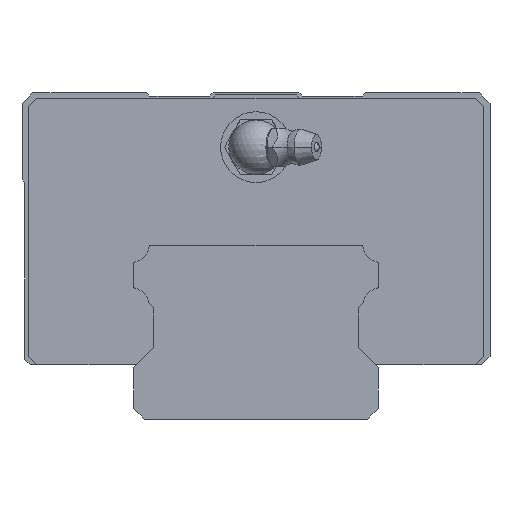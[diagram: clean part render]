
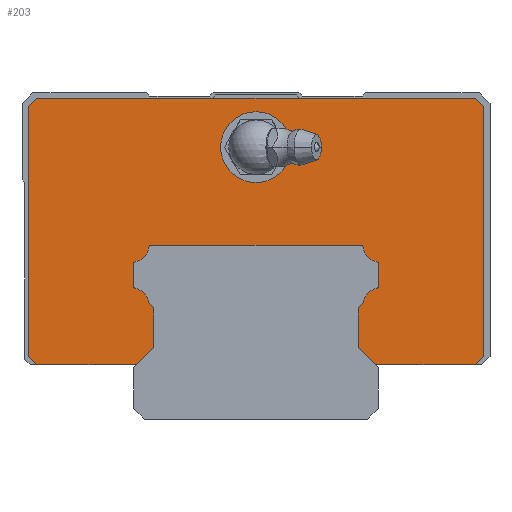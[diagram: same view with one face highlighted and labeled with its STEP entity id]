
A CAD part, front view. The second image highlights one B-rep face of the part: STEP entity #203.
In plain terms, the highlighted planar face has unit normal (0, -1, 0).
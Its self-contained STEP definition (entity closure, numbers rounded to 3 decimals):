
#203=ADVANCED_FACE('',(#461,#462),#463,.T.);
#461=FACE_BOUND('',#941,.T.);
#462=FACE_OUTER_BOUND('',#942,.T.);
#463=PLANE('',#943);
#941=EDGE_LOOP('',(#1629,#1630,#1631));
#942=EDGE_LOOP('',(#1632,#1633,#1634,#1635,#1636,#1637,#1638,#1639,#1640,#1641,#1642,#1643,#1644,#1645,#1646,#1647,#1648,#1649,#1650,#1651,#1652,#1653,#1654,#1655,#1656,#1657,#1658,#1659));
#943=AXIS2_PLACEMENT_3D('',#1660,#1661,#1662);
#1629=ORIENTED_EDGE('',*,*,#3338,.F.);
#1630=ORIENTED_EDGE('',*,*,#3339,.F.);
#1631=ORIENTED_EDGE('',*,*,#3274,.F.);
#1632=ORIENTED_EDGE('',*,*,#3340,.T.);
#1633=ORIENTED_EDGE('',*,*,#3341,.T.);
#1634=ORIENTED_EDGE('',*,*,#3342,.T.);
#1635=ORIENTED_EDGE('',*,*,#3343,.T.);
#1636=ORIENTED_EDGE('',*,*,#3344,.T.);
#1637=ORIENTED_EDGE('',*,*,#3345,.T.);
#1638=ORIENTED_EDGE('',*,*,#3346,.T.);
#1639=ORIENTED_EDGE('',*,*,#3347,.T.);
#1640=ORIENTED_EDGE('',*,*,#3348,.T.);
#1641=ORIENTED_EDGE('',*,*,#3349,.T.);
#1642=ORIENTED_EDGE('',*,*,#3350,.T.);
#1643=ORIENTED_EDGE('',*,*,#3351,.T.);
#1644=ORIENTED_EDGE('',*,*,#3352,.T.);
#1645=ORIENTED_EDGE('',*,*,#3353,.T.);
#1646=ORIENTED_EDGE('',*,*,#3354,.T.);
#1647=ORIENTED_EDGE('',*,*,#3355,.T.);
#1648=ORIENTED_EDGE('',*,*,#3356,.T.);
#1649=ORIENTED_EDGE('',*,*,#3357,.T.);
#1650=ORIENTED_EDGE('',*,*,#3358,.T.);
#1651=ORIENTED_EDGE('',*,*,#3359,.T.);
#1652=ORIENTED_EDGE('',*,*,#3360,.T.);
#1653=ORIENTED_EDGE('',*,*,#3361,.T.);
#1654=ORIENTED_EDGE('',*,*,#3362,.T.);
#1655=ORIENTED_EDGE('',*,*,#3363,.T.);
#1656=ORIENTED_EDGE('',*,*,#3364,.T.);
#1657=ORIENTED_EDGE('',*,*,#3365,.T.);
#1658=ORIENTED_EDGE('',*,*,#3366,.T.);
#1659=ORIENTED_EDGE('',*,*,#3367,.T.);
#1660=CARTESIAN_POINT('',(0.,-17.0,99.3));
#1661=DIRECTION('',(0.0,-1.0,0.0));
#1662=DIRECTION('',(0.0,0.0,-1.0));
#3274=EDGE_CURVE('',#3900,#3903,#3904,.T.);
#3338=EDGE_CURVE('',#4018,#3900,#4019,.T.);
#3339=EDGE_CURVE('',#3903,#4018,#4020,.T.);
#3340=EDGE_CURVE('',#4021,#4022,#4023,.T.);
#3341=EDGE_CURVE('',#4022,#4024,#4025,.T.);
#3342=EDGE_CURVE('',#4024,#4026,#4027,.T.);
#3343=EDGE_CURVE('',#4026,#4028,#4029,.T.);
#3344=EDGE_CURVE('',#4028,#4030,#4031,.T.);
#3345=EDGE_CURVE('',#4030,#4032,#4033,.T.);
#3346=EDGE_CURVE('',#4032,#4034,#4035,.T.);
#3347=EDGE_CURVE('',#4034,#4036,#4037,.T.);
#3348=EDGE_CURVE('',#4036,#4038,#4039,.T.);
#3349=EDGE_CURVE('',#4038,#4040,#4041,.T.);
#3350=EDGE_CURVE('',#4040,#4042,#4043,.T.);
#3351=EDGE_CURVE('',#4042,#4044,#4045,.T.);
#3352=EDGE_CURVE('',#4044,#4046,#4047,.T.);
#3353=EDGE_CURVE('',#4046,#4048,#4049,.T.);
#3354=EDGE_CURVE('',#4048,#4050,#4051,.T.);
#3355=EDGE_CURVE('',#4050,#4052,#4053,.T.);
#3356=EDGE_CURVE('',#4052,#4054,#4055,.T.);
#3357=EDGE_CURVE('',#4054,#4056,#4057,.T.);
#3358=EDGE_CURVE('',#4056,#4058,#4059,.T.);
#3359=EDGE_CURVE('',#4058,#4060,#4061,.T.);
#3360=EDGE_CURVE('',#4060,#4062,#4063,.T.);
#3361=EDGE_CURVE('',#4062,#4064,#4065,.T.);
#3362=EDGE_CURVE('',#4064,#4066,#4067,.T.);
#3363=EDGE_CURVE('',#4066,#4068,#4069,.T.);
#3364=EDGE_CURVE('',#4068,#4070,#4071,.T.);
#3365=EDGE_CURVE('',#4070,#4072,#4073,.T.);
#3366=EDGE_CURVE('',#4072,#4074,#4075,.T.);
#3367=EDGE_CURVE('',#4074,#4021,#4076,.T.);
#3900=VERTEX_POINT('',#4879);
#3903=VERTEX_POINT('',#4883);
#3904=CIRCLE('',#4884,6.5);
#4018=VERTEX_POINT('',#5031);
#4019=CIRCLE('',#5032,6.5);
#4020=CIRCLE('',#5033,6.5);
#4021=VERTEX_POINT('',#5034);
#4022=VERTEX_POINT('',#5035);
#4023=LINE('',#5036,#5037);
#4024=VERTEX_POINT('',#5038);
#4025=LINE('',#5039,#5040);
#4026=VERTEX_POINT('',#5041);
#4027=LINE('',#5042,#5043);
#4028=VERTEX_POINT('',#5044);
#4029=LINE('',#5045,#5046);
#4030=VERTEX_POINT('',#5047);
#4031=LINE('',#5048,#5049);
#4032=VERTEX_POINT('',#5050);
#4033=LINE('',#5051,#5052);
#4034=VERTEX_POINT('',#5053);
#4035=LINE('',#5054,#5055);
#4036=VERTEX_POINT('',#5056);
#4037=LINE('',#5057,#5058);
#4038=VERTEX_POINT('',#5059);
#4039=LINE('',#5060,#5061);
#4040=VERTEX_POINT('',#5062);
#4041=LINE('',#5063,#5064);
#4042=VERTEX_POINT('',#5065);
#4043=LINE('',#5066,#5067);
#4044=VERTEX_POINT('',#5068);
#4045=LINE('',#5069,#5070);
#4046=VERTEX_POINT('',#5071);
#4047=LINE('',#5072,#5073);
#4048=VERTEX_POINT('',#5074);
#4049=LINE('',#5075,#5076);
#4050=VERTEX_POINT('',#5077);
#4051=CIRCLE('',#5078,3.2);
#4052=VERTEX_POINT('',#5079);
#4053=CIRCLE('',#5080,0.5);
#4054=VERTEX_POINT('',#5081);
#4055=LINE('',#5082,#5083);
#4056=VERTEX_POINT('',#5084);
#4057=CIRCLE('',#5085,0.5);
#4058=VERTEX_POINT('',#5086);
#4059=CIRCLE('',#5087,3.2);
#4060=VERTEX_POINT('',#5088);
#4061=CIRCLE('',#5089,0.5);
#4062=VERTEX_POINT('',#5090);
#4063=LINE('',#5091,#5092);
#4064=VERTEX_POINT('',#5093);
#4065=CIRCLE('',#5094,0.5);
#4066=VERTEX_POINT('',#5095);
#4067=CIRCLE('',#5096,3.2);
#4068=VERTEX_POINT('',#5097);
#4069=CIRCLE('',#5098,0.5);
#4070=VERTEX_POINT('',#5099);
#4071=LINE('',#5100,#5101);
#4072=VERTEX_POINT('',#5102);
#4073=CIRCLE('',#5103,0.5);
#4074=VERTEX_POINT('',#5104);
#4075=CIRCLE('',#5105,3.2);
#4076=LINE('',#5106,#5107);
#4879=CARTESIAN_POINT('',(0.,-17.0,56.5));
#4883=CARTESIAN_POINT('',(0.,-17.0,43.5));
#4884=AXIS2_PLACEMENT_3D('',#6294,#6295,#6296);
#5031=CARTESIAN_POINT('',(6.5,-17.0,50.0));
#5032=AXIS2_PLACEMENT_3D('',#6420,#6421,#6422);
#5033=AXIS2_PLACEMENT_3D('',#6423,#6424,#6425);
#5034=CARTESIAN_POINT('',(18.75,-17.0,20.45));
#5035=CARTESIAN_POINT('',(18.75,-17.0,13.25));
#5036=CARTESIAN_POINT('',(18.75,-17.0,99.3));
#5037=VECTOR('',#6426,1000.0);
#5038=CARTESIAN_POINT('',(22.0,-17.0,10.0));
#5039=CARTESIAN_POINT('',(-33.65,-17.0,65.65));
#5040=VECTOR('',#6427,1000.0);
#5041=CARTESIAN_POINT('',(40.3,-17.0,10.0));
#5042=CARTESIAN_POINT('',(-40.3,-17.0,10.0));
#5043=VECTOR('',#6428,1000.0);
#5044=CARTESIAN_POINT('',(41.8,-17.0,11.5));
#5045=CARTESIAN_POINT('',(40.3,-17.0,10.0));
#5046=VECTOR('',#6429,1000.0);
#5047=CARTESIAN_POINT('',(41.8,-17.0,57.5));
#5048=CARTESIAN_POINT('',(41.8,-17.0,11.5));
#5049=VECTOR('',#6430,1000.0);
#5050=CARTESIAN_POINT('',(40.3,-17.0,59.0));
#5051=CARTESIAN_POINT('',(41.8,-17.0,57.5));
#5052=VECTOR('',#6431,1000.0);
#5053=CARTESIAN_POINT('',(-40.3,-17.0,59.0));
#5054=CARTESIAN_POINT('',(40.3,-17.0,59.0));
#5055=VECTOR('',#6432,1000.0);
#5056=CARTESIAN_POINT('',(-41.8,-17.0,57.5));
#5057=CARTESIAN_POINT('',(-40.3,-17.0,59.0));
#5058=VECTOR('',#6433,1000.0);
#5059=CARTESIAN_POINT('',(-41.8,-17.0,11.5));
#5060=CARTESIAN_POINT('',(-41.8,-17.0,57.5));
#5061=VECTOR('',#6434,1000.0);
#5062=CARTESIAN_POINT('',(-40.3,-17.0,10.0));
#5063=CARTESIAN_POINT('',(-41.8,-17.0,11.5));
#5064=VECTOR('',#6435,1000.0);
#5065=CARTESIAN_POINT('',(-22.0,-17.0,10.0));
#5066=CARTESIAN_POINT('',(-40.3,-17.0,10.0));
#5067=VECTOR('',#6436,1000.0);
#5068=CARTESIAN_POINT('',(-18.75,-17.0,13.25));
#5069=CARTESIAN_POINT('',(33.65,-17.0,65.65));
#5070=VECTOR('',#6437,1000.0);
#5071=CARTESIAN_POINT('',(-18.75,-17.0,20.45));
#5072=CARTESIAN_POINT('',(-18.75,-17.0,99.3));
#5073=VECTOR('',#6438,1000.0);
#5074=CARTESIAN_POINT('',(-19.674,-17.0,21.374));
#5075=CARTESIAN_POINT('',(-48.8,-17.0,50.5));
#5076=VECTOR('',#6439,1000.0);
#5077=CARTESIAN_POINT('',(-22.113,-17.0,24.027));
#5078=AXIS2_PLACEMENT_3D('',#6440,#6441,#6442);
#5079=CARTESIAN_POINT('',(-22.5,-17.0,24.514));
#5080=AXIS2_PLACEMENT_3D('',#6443,#6444,#6445);
#5081=CARTESIAN_POINT('',(-22.5,-17.0,28.486));
#5082=CARTESIAN_POINT('',(-22.5,-17.0,99.3));
#5083=VECTOR('',#6446,1000.0);
#5084=CARTESIAN_POINT('',(-22.113,-17.0,28.973));
#5085=AXIS2_PLACEMENT_3D('',#6447,#6448,#6449);
#5086=CARTESIAN_POINT('',(-19.681,-17.0,31.58));
#5087=AXIS2_PLACEMENT_3D('',#6450,#6451,#6452);
#5088=CARTESIAN_POINT('',(-19.187,-17.0,32.0));
#5089=AXIS2_PLACEMENT_3D('',#6453,#6454,#6455);
#5090=CARTESIAN_POINT('',(19.187,-17.0,32.0));
#5091=CARTESIAN_POINT('',(0.,-17.0,32.0));
#5092=VECTOR('',#6456,1000.0);
#5093=CARTESIAN_POINT('',(19.681,-17.0,31.58));
#5094=AXIS2_PLACEMENT_3D('',#6457,#6458,#6459);
#5095=CARTESIAN_POINT('',(22.113,-17.0,28.973));
#5096=AXIS2_PLACEMENT_3D('',#6460,#6461,#6462);
#5097=CARTESIAN_POINT('',(22.5,-17.0,28.486));
#5098=AXIS2_PLACEMENT_3D('',#6463,#6464,#6465);
#5099=CARTESIAN_POINT('',(22.5,-17.0,24.514));
#5100=CARTESIAN_POINT('',(22.5,-17.0,99.3));
#5101=VECTOR('',#6466,1000.0);
#5102=CARTESIAN_POINT('',(22.113,-17.0,24.027));
#5103=AXIS2_PLACEMENT_3D('',#6467,#6468,#6469);
#5104=CARTESIAN_POINT('',(19.674,-17.0,21.374));
#5105=AXIS2_PLACEMENT_3D('',#6470,#6471,#6472);
#5106=CARTESIAN_POINT('',(48.8,-17.0,50.5));
#5107=VECTOR('',#6473,1000.0);
#6294=CARTESIAN_POINT('',(0.,-17.0,50.0));
#6295=DIRECTION('',(0.0,-1.0,0.0));
#6296=DIRECTION('',(1.0,0.0,0.0));
#6420=CARTESIAN_POINT('',(0.,-17.0,50.0));
#6421=DIRECTION('',(0.0,-1.0,0.0));
#6422=DIRECTION('',(1.0,0.0,0.0));
#6423=CARTESIAN_POINT('',(0.,-17.0,50.0));
#6424=DIRECTION('',(0.0,-1.0,0.0));
#6425=DIRECTION('',(1.0,0.0,0.0));
#6426=DIRECTION('',(0.0,0.0,-1.0));
#6427=DIRECTION('',(0.707,0.0,-0.707));
#6428=DIRECTION('',(1.0,0.0,0.0));
#6429=DIRECTION('',(0.707,0.0,0.707));
#6430=DIRECTION('',(0.0,0.0,1.0));
#6431=DIRECTION('',(-0.707,0.0,0.707));
#6432=DIRECTION('',(-1.0,0.0,0.));
#6433=DIRECTION('',(-0.707,0.0,-0.707));
#6434=DIRECTION('',(0.0,0.0,-1.0));
#6435=DIRECTION('',(0.707,0.0,-0.707));
#6436=DIRECTION('',(1.0,0.0,0.0));
#6437=DIRECTION('',(0.707,0.0,0.707));
#6438=DIRECTION('',(0.0,0.0,1.0));
#6439=DIRECTION('',(-0.707,0.0,0.707));
#6440=CARTESIAN_POINT('',(-22.84,-17.0,20.91));
#6441=DIRECTION('',(0.0,-1.0,0.0));
#6442=DIRECTION('',(0.0,0.0,-1.0));
#6443=CARTESIAN_POINT('',(-22.0,-17.0,24.514));
#6444=DIRECTION('',(0.0,1.0,0.0));
#6445=DIRECTION('',(0.0,0.0,-1.0));
#6446=DIRECTION('',(0.0,0.0,1.0));
#6447=CARTESIAN_POINT('',(-22.0,-17.0,28.486));
#6448=DIRECTION('',(0.0,1.0,0.0));
#6449=DIRECTION('',(0.0,0.0,-1.0));
#6450=CARTESIAN_POINT('',(-22.84,-17.0,32.09));
#6451=DIRECTION('',(0.0,-1.0,0.0));
#6452=DIRECTION('',(0.0,0.0,-1.0));
#6453=CARTESIAN_POINT('',(-19.187,-17.0,31.5));
#6454=DIRECTION('',(0.0,1.0,0.0));
#6455=DIRECTION('',(0.0,0.0,-1.0));
#6456=DIRECTION('',(1.0,0.0,0.0));
#6457=CARTESIAN_POINT('',(19.187,-17.0,31.5));
#6458=DIRECTION('',(0.0,1.0,0.0));
#6459=DIRECTION('',(0.0,0.0,-1.0));
#6460=CARTESIAN_POINT('',(22.84,-17.0,32.09));
#6461=DIRECTION('',(0.0,-1.0,0.0));
#6462=DIRECTION('',(0.0,0.0,-1.0));
#6463=CARTESIAN_POINT('',(22.0,-17.0,28.486));
#6464=DIRECTION('',(0.0,1.0,0.0));
#6465=DIRECTION('',(0.0,0.0,-1.0));
#6466=DIRECTION('',(0.0,0.0,-1.0));
#6467=CARTESIAN_POINT('',(22.0,-17.0,24.514));
#6468=DIRECTION('',(0.0,1.0,0.0));
#6469=DIRECTION('',(0.0,0.0,-1.0));
#6470=CARTESIAN_POINT('',(22.84,-17.0,20.91));
#6471=DIRECTION('',(0.0,-1.0,0.0));
#6472=DIRECTION('',(0.0,0.0,-1.0));
#6473=DIRECTION('',(-0.707,0.0,-0.707));
